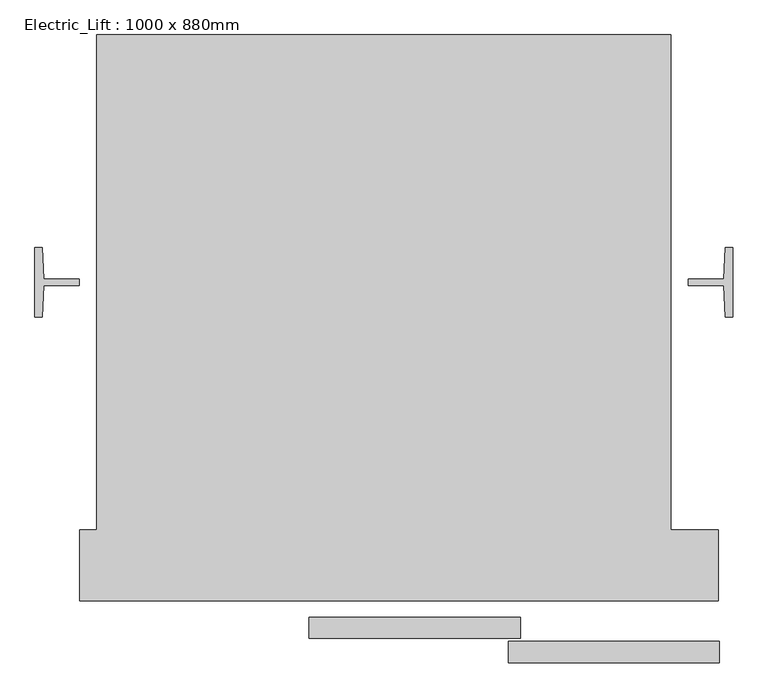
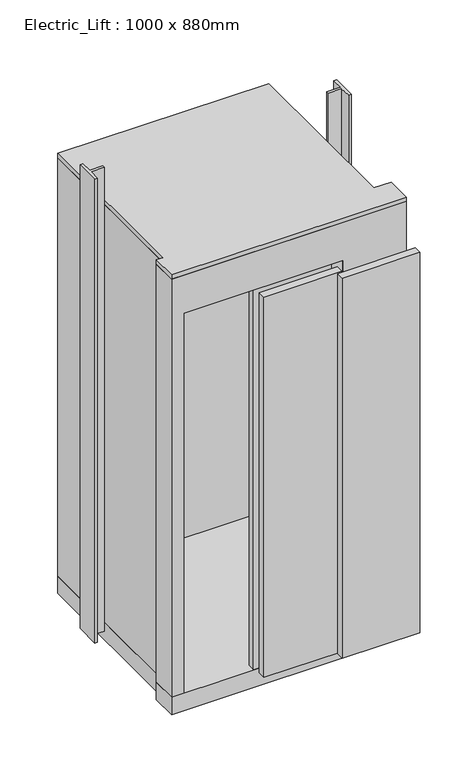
"""IFC4 building model written with IfcOpenShell, lengths in millimetres: proxy geometry, Electric_Lift : 1000 x 880mm."""

from ifc_helpers import new_model, si_unit, frame, origin, origin_with_axes, place, context, project, spatial, polyline, outline, extrude, faceted_brep, source, transform, mapped, element, save


def electric_lift_1000_x_880mm_9ef0b3b1(model_context):
    return source(origin(), model_context, "Body", "SolidModel", [
        extrude(outline(polyline([(525.0, 452.4983567), (525.0, -452.5016433), (611.5, -452.5016433), (611.5, -582.5016433), (-556.0, -582.5016433), (-556.0, -452.5016433), (-525.0, -452.5016433), (-525.0, 452.4983567), (525.0, 452.4983567)])), frame((0.0, 0.0, 2200.0), z_axis=(0.0, 0.0, 1.0), x_axis=(1.0, 0.0, 0.0)), (0.0, 0.0, 1.0), 22.0),
        extrude(outline(polyline([(573.6220553, -496.512263), (573.6220553, -538.112263), (187.6220553, -538.112263), (187.6220553, -496.512263), (573.6220553, -496.512263)])), origin_with_axes(), (0.0, 0.0, 1.0), 2000.0),
        extrude(outline(polyline([(239.8301, -543.5016433), (239.8301, -578.5429307), (-146.1699, -578.5429307), (-146.1699, -543.5016433), (239.8301, -543.5016433)])), origin_with_axes(), (0.0, 0.0, 1.0), 2000.0),
        extrude(outline(polyline([(613.6220553, -695.8910236), (227.6220553, -695.8910236), (227.6220553, -656.8910236), (613.6220553, -656.8910236), (613.6220553, -695.8910236)])), origin_with_axes(), (0.0, 0.0, 1.0), 2000.0),
        extrude(outline(polyline([(249.8301, -612.5016433), (249.8301, -651.5016433), (-136.1699, -651.5016433), (-136.1699, -612.5016433), (249.8301, -612.5016433)])), origin_with_axes(), (0.0, 0.0, 1.0), 2000.0),
        extrude(outline(polyline([(525.0, 452.4983567), (525.0, -452.5016433), (611.5, -452.5016433), (611.5, -582.5016433), (-556.0, -582.5016433), (-556.0, -452.5016433), (-525.0, -452.5016433), (-525.0, 452.4983567), (525.0, 452.4983567)])), frame((0.0, 0.0, -90.0), z_axis=(0.0, 0.0, 1.0), x_axis=(1.0, 0.0, 0.0)), (0.0, 0.0, 1.0), 90.0),
        faceted_brep([(525.0, 452.4983567, 2200.0), (-525.0, 452.4983567, 2200.0), (-525.0, -452.5016433, 2200.0), (-556.0, -452.5016433, 2200.0), (-556.0, -582.5016433, 2200.0), (611.5, -582.5016433, 2200.0), (611.5, -452.5016433, 2200.0), (525.0, -452.5016433, 2200.0), (500.0, 427.4983567, 2200.0), (500.0, -452.5016433, 2200.0), (235.3, -452.5016433, 2200.0), (235.3, -490.5016433, 2200.0), (583.1228936, -490.5016433, 2200.0), (583.1228936, -578.5429307, 2200.0), (-496.1699, -578.5429307, 2200.0), (-496.1699, -494.8181176, 2200.0), (-475.0, -494.8181176, 2200.0), (-475.0, -452.5016433, 2200.0), (-500.0, -452.5016433, 2200.0), (-500.0, -115.0, 2200.0), (-485.2454439, -115.0, 2200.0), (-485.2454439, 115.0, 2200.0), (-500.0, 115.0, 2200.0), (-500.0, 427.4983567, 2200.0), (525.0, 452.4983567, 0.0), (525.0, -452.5016433, 0.0), (611.5, -452.5016433, 0.0), (611.5, -582.5016433, 0.0), (298.4437103, -582.5016433, 0.0), (298.4437103, -578.5429307, 0.0), (583.1228936, -578.5429307, 0.0), (583.1228936, -490.5016433, 0.0), (235.3, -490.5016433, 0.0), (235.3, -452.5016433, 0.0), (500.0, -452.5016433, 0.0), (500.0, 427.4983567, 0.0), (-500.0, 427.4983567, 0.0), (-500.0, 115.0, 0.0), (-485.2454439, 115.0, 0.0), (-485.2454439, -115.0, 0.0), (-500.0, -115.0, 0.0), (-500.0, -452.5016433, 0.0), (-475.0, -452.5016433, 0.0), (-475.0, -494.8181176, 0.0), (-496.1699, -494.8181176, 0.0), (-496.1699, -582.5016433, 0.0), (-556.0, -582.5016433, 0.0), (-556.0, -452.5016433, 0.0), (-525.0, -452.5016433, 0.0), (-525.0, 452.4983567, 0.0), (-496.1699, -582.5016433, 2000.0), (298.4437103, -582.5016433, 2000.0), (298.4437103, -578.5429307, 2000.0), (-496.1699, -578.5429307, 2000.0), (-475.0, -494.8181176, 2000.0)], [[[0, 1, 2, 3, 4, 5, 6, 7], [8, 9, 10, 11, 12, 13, 14, 15, 16, 17, 18, 19, 20, 21, 22, 23]], [[24, 25, 26, 27, 28, 29, 30, 31, 32, 33, 34, 35, 36, 37, 38, 39, 40, 41, 42, 43, 44, 45, 46, 47, 48, 49]], [[1, 0, 24, 49]], [[2, 1, 49, 48]], [[3, 2, 48, 47]], [[4, 3, 47, 46]], [[5, 4, 46, 45, 50, 51, 28, 27]], [[6, 5, 27, 26]], [[7, 6, 26, 25]], [[0, 7, 25, 24]], [[9, 8, 35, 34]], [[10, 9, 34, 33]], [[11, 10, 33, 32]], [[12, 11, 32, 31]], [[13, 12, 31, 30]], [[14, 13, 30, 29, 52, 53]], [[15, 14, 53, 50, 45, 44]], [[16, 15, 44, 43, 54]], [[17, 16, 54, 43, 42]], [[18, 17, 42, 41]], [[19, 18, 41, 40]], [[20, 19, 40, 39]], [[21, 20, 39, 38]], [[22, 21, 38, 37]], [[23, 22, 37, 36]], [[8, 23, 36, 35]], [[50, 53, 52, 51]], [[51, 52, 29, 28]]]),
        extrude(outline(polyline([(-625.026988, 63.4995766), (-622.026988, 6.2995767), (-557.0269884, 6.2995767), (-557.0269884, -6.1960394), (-622.1132057, -6.1960394), (-625.026988, -63.5004234), (-638.026988, -63.5004234), (-638.026988, 63.4995766), (-625.026988, 63.4995766)])), origin_with_axes(), (0.0, 0.0, 1.0), 2438.4),
        extrude(outline(polyline([(622.026988, 6.2995767), (625.026988, 63.4995766), (638.026988, 63.4995766), (638.026988, -63.5004234), (625.026988, -63.5004234), (622.1132057, -6.1960394), (557.0269884, -6.1960394), (557.0269884, 6.2995767), (622.026988, 6.2995767)])), origin_with_axes(), (0.0, 0.0, 1.0), 2438.4),
    ])


if __name__ == "__main__":
    model = new_model("IFC4")
    model_context = context("Model", 3, world=origin())
    ifc_project = project(units=[si_unit("LENGTHUNIT", "METRE", prefix="MILLI")], contexts=[model_context])
    site = spatial("IfcSite", under=ifc_project)
    building = spatial("IfcBuilding", under=site)
    placement = place(None, origin())
    electric_lift_1000_x_880mm_shape = electric_lift_1000_x_880mm_9ef0b3b1(model_context)
    element("IfcBuildingElementProxy", 1, Name="Electric_Lift : 1000 x 880mm", ObjectType="Electric_Lift : 1000 x 880mm", at=placement, inside=building, context=model_context, shape_type="MappedRepresentation", body=[
        mapped(electric_lift_1000_x_880mm_shape, transform((0.0, 0.0, 0.0), x_axis=(1.0, 0.0, 0.0), y_axis=(0.0, 1.0, 0.0), z_axis=(0.0, 0.0, 1.0))),
    ])
    save(model, "model.ifc")
